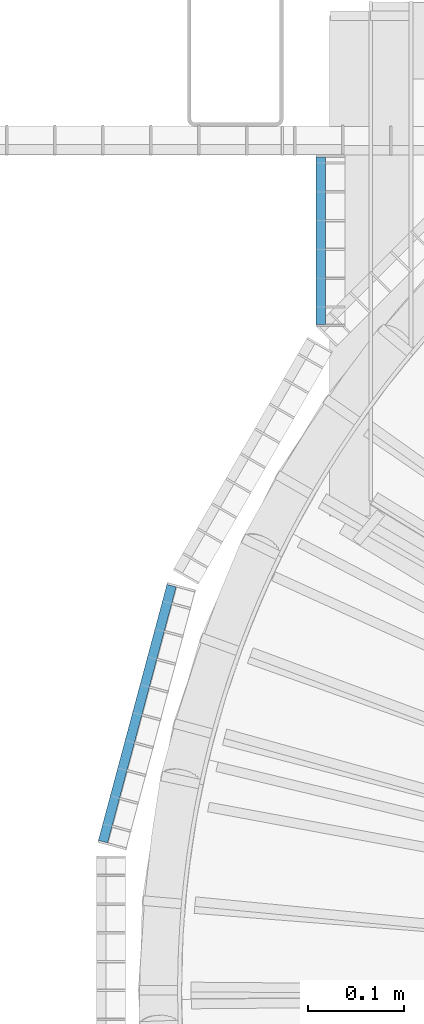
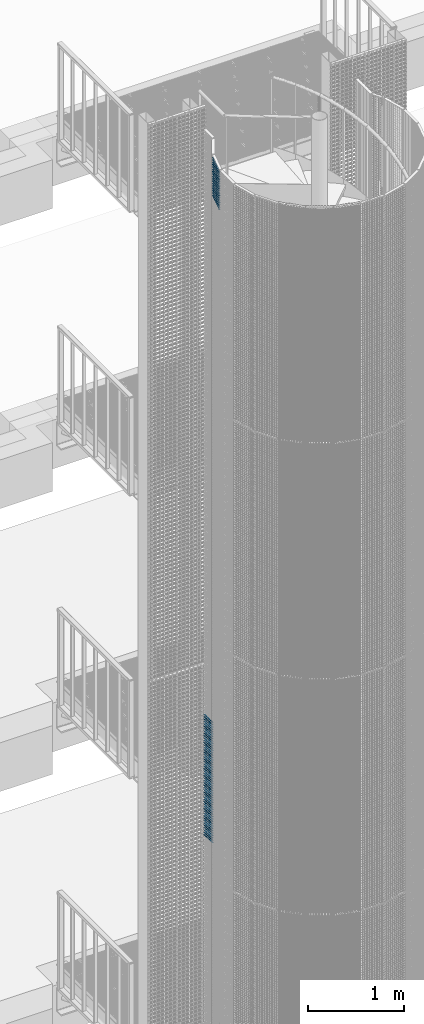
# One storey, part 177 of 1148: 69 beams, 2 elements without a shape of their own.
"""IFC2X3 building model written with IfcOpenShell, lengths in millimetres."""

from ifc_helpers import new_model, si_unit, frame, origin_with_axes, origin_2d_with_axis, place, context, subcontext, project, spatial, rectangle, extrude, material, type_object, element, aggregate, save


model = new_model("IFC2X3")

# Units and contexts
model_context = context("Model", 3, precision=1e-05, world=origin_with_axes())
body_context = subcontext(model_context, "Body", "Model", "MODEL_VIEW")
ifc_project = project(units=[si_unit("LENGTHUNIT", "METRE", prefix="MILLI"), si_unit("AREAUNIT", "SQUARE_METRE"), si_unit("VOLUMEUNIT", "CUBIC_METRE"), si_unit("MASSUNIT", "GRAM", prefix="KILO"), si_unit("TIMEUNIT", "SECOND"), si_unit("PLANEANGLEUNIT", "RADIAN"), si_unit("SOLIDANGLEUNIT", "STERADIAN"), si_unit("THERMODYNAMICTEMPERATUREUNIT", "DEGREE_CELSIUS"), si_unit("LUMINOUSINTENSITYUNIT", "LUMEN")], contexts=[model_context])

# Site, building, storey
site_placement = place(None, origin_with_axes())
site = spatial("IfcSite", under=ifc_project, at=site_placement, Name="Undefined", CompositionType="ELEMENT")
building_placement = place(site_placement, origin_with_axes())
building = spatial("IfcBuilding", under=site, at=building_placement, Name="Undefined", CompositionType="ELEMENT")
storey_placement = place(building_placement, origin_with_axes())
storey = spatial("IfcBuildingStorey", under=building, at=storey_placement, Name="Undefined", CompositionType="ELEMENT", Elevation=0.0)

# Assembly, beams
assembly_1_placement = place(storey_placement, origin_with_axes())
assembly_1 = element("IfcElementAssembly", 1, at=assembly_1_placement, inside=storey, Name="BORDURE", AssemblyPlace="NOTDEFINED", PredefinedType="NOTDEFINED")
ifc_material = material(Name="STEEL/S235JR")
beam_type = type_object("IfcBeamType", Name="PL2*10", PredefinedType="NOTDEFINED")
beam_1_placement = place(assembly_1_placement, frame((-884.882567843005, 867.997017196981, 10560.0), z_axis=(-1.0, 0.0, 0.0), x_axis=(0.0, -1.0, 0.0)))
beam_1 = element("IfcBeam", 2, at=beam_1_placement, type_object=beam_type, material=ifc_material, Name="ENTRETOISE", context=body_context, shape_type="SweptSolid", body=[
    extrude(rectangle(XDim=2.0, YDim=10.0, at=origin_2d_with_axis()), frame((174.109999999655, 0.0, 0.0), z_axis=(-1.0, 0.0, 0.0), x_axis=(0.0, -1.0, 0.0)), (0.0, 0.0, 1.0), 174.11),
])
beam_2_placement = place(assembly_1_placement, frame((-884.882567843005, 867.997017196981, 10530.0), z_axis=(-1.0, 0.0, 0.0), x_axis=(0.0, -1.0, 0.0)))
beam_2 = element("IfcBeam", 3, at=beam_2_placement, type_object=beam_type, material=ifc_material, Name="ENTRETOISE", context=body_context, shape_type="SweptSolid", body=[
    extrude(rectangle(XDim=2.0, YDim=10.0, at=origin_2d_with_axis()), frame((174.109999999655, 0.0, 0.0), z_axis=(-1.0, 0.0, 0.0), x_axis=(0.0, -1.0, 0.0)), (0.0, 0.0, 1.0), 174.11),
])
beam_3_placement = place(assembly_1_placement, frame((-884.882567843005, 867.997017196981, 10500.0), z_axis=(-1.0, 0.0, 0.0), x_axis=(0.0, -1.0, 0.0)))
beam_3 = element("IfcBeam", 4, at=beam_3_placement, type_object=beam_type, material=ifc_material, Name="ENTRETOISE", context=body_context, shape_type="SweptSolid", body=[
    extrude(rectangle(XDim=2.0, YDim=10.0, at=origin_2d_with_axis()), frame((174.109999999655, 0.0, 0.0), z_axis=(-1.0, 0.0, 0.0), x_axis=(0.0, -1.0, 0.0)), (0.0, 0.0, 1.0), 174.11),
])
beam_4_placement = place(assembly_1_placement, frame((-884.882567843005, 867.997017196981, 10470.0), z_axis=(-1.0, 0.0, 0.0), x_axis=(0.0, -1.0, 0.0)))
beam_4 = element("IfcBeam", 5, at=beam_4_placement, type_object=beam_type, material=ifc_material, Name="ENTRETOISE", context=body_context, shape_type="SweptSolid", body=[
    extrude(rectangle(XDim=2.0, YDim=10.0, at=origin_2d_with_axis()), frame((174.109999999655, 0.0, 0.0), z_axis=(-1.0, 0.0, 0.0), x_axis=(0.0, -1.0, 0.0)), (0.0, 0.0, 1.0), 174.11),
])
beam_5_placement = place(assembly_1_placement, frame((-884.882567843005, 867.997017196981, 10440.0), z_axis=(-1.0, 0.0, 0.0), x_axis=(0.0, -1.0, 0.0)))
beam_5 = element("IfcBeam", 6, at=beam_5_placement, type_object=beam_type, material=ifc_material, Name="ENTRETOISE", context=body_context, shape_type="SweptSolid", body=[
    extrude(rectangle(XDim=2.0, YDim=10.0, at=origin_2d_with_axis()), frame((174.109999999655, 0.0, 0.0), z_axis=(-1.0, 0.0, 0.0), x_axis=(0.0, -1.0, 0.0)), (0.0, 0.0, 1.0), 174.11),
])
beam_6_placement = place(assembly_1_placement, frame((-884.882567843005, 867.997017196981, 10410.0), z_axis=(-1.0, 0.0, 0.0), x_axis=(0.0, -1.0, 0.0)))
beam_6 = element("IfcBeam", 7, at=beam_6_placement, type_object=beam_type, material=ifc_material, Name="ENTRETOISE", context=body_context, shape_type="SweptSolid", body=[
    extrude(rectangle(XDim=2.0, YDim=10.0, at=origin_2d_with_axis()), frame((174.109999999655, 0.0, 0.0), z_axis=(-1.0, 0.0, 0.0), x_axis=(0.0, -1.0, 0.0)), (0.0, 0.0, 1.0), 174.11),
])
beam_7_placement = place(assembly_1_placement, frame((-884.882567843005, 867.99701719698, 10380.0), z_axis=(-1.0, 0.0, 0.0), x_axis=(0.0, -1.0, 0.0)))
beam_7 = element("IfcBeam", 8, at=beam_7_placement, type_object=beam_type, material=ifc_material, Name="ENTRETOISE", context=body_context, shape_type="SweptSolid", body=[
    extrude(rectangle(XDim=2.0, YDim=10.0, at=origin_2d_with_axis()), frame((174.109999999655, 0.0, 0.0), z_axis=(-1.0, 0.0, 0.0), x_axis=(0.0, -1.0, 0.0)), (0.0, 0.0, 1.0), 174.11),
])
beam_8_placement = place(assembly_1_placement, frame((-884.882567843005, 867.99701719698, 10350.0), z_axis=(-1.0, 0.0, 0.0), x_axis=(0.0, -1.0, 0.0)))
beam_8 = element("IfcBeam", 9, at=beam_8_placement, type_object=beam_type, material=ifc_material, Name="ENTRETOISE", context=body_context, shape_type="SweptSolid", body=[
    extrude(rectangle(XDim=2.0, YDim=10.0, at=origin_2d_with_axis()), frame((174.109999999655, 0.0, 0.0), z_axis=(-1.0, 0.0, 0.0), x_axis=(0.0, -1.0, 0.0)), (0.0, 0.0, 1.0), 174.11),
])
beam_9_placement = place(assembly_1_placement, frame((-884.882567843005, 867.99701719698, 10320.0), z_axis=(-1.0, 0.0, 0.0), x_axis=(0.0, -1.0, 0.0)))
beam_9 = element("IfcBeam", 10, at=beam_9_placement, type_object=beam_type, material=ifc_material, Name="ENTRETOISE", context=body_context, shape_type="SweptSolid", body=[
    extrude(rectangle(XDim=2.0, YDim=10.0, at=origin_2d_with_axis()), frame((174.109999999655, 0.0, 0.0), z_axis=(-1.0, 0.0, 0.0), x_axis=(0.0, -1.0, 0.0)), (0.0, 0.0, 1.0), 174.11),
])
beam_10_placement = place(assembly_1_placement, frame((-884.882567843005, 867.99701719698, 10290.0), z_axis=(-1.0, 0.0, 0.0), x_axis=(0.0, -1.0, 0.0)))
beam_10 = element("IfcBeam", 11, at=beam_10_placement, type_object=beam_type, material=ifc_material, Name="ENTRETOISE", context=body_context, shape_type="SweptSolid", body=[
    extrude(rectangle(XDim=2.0, YDim=10.0, at=origin_2d_with_axis()), frame((174.109999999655, 0.0, 0.0), z_axis=(-1.0, 0.0, 0.0), x_axis=(0.0, -1.0, 0.0)), (0.0, 0.0, 1.0), 174.11),
])
beam_11_placement = place(assembly_1_placement, frame((-884.882567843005, 867.99701719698, 10260.0), z_axis=(-1.0, 0.0, 0.0), x_axis=(0.0, -1.0, 0.0)))
beam_11 = element("IfcBeam", 12, at=beam_11_placement, type_object=beam_type, material=ifc_material, Name="ENTRETOISE", context=body_context, shape_type="SweptSolid", body=[
    extrude(rectangle(XDim=2.0, YDim=10.0, at=origin_2d_with_axis()), frame((174.109999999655, 0.0, 0.0), z_axis=(-1.0, 0.0, 0.0), x_axis=(0.0, -1.0, 0.0)), (0.0, 0.0, 1.0), 174.11),
])
beam_12_placement = place(assembly_1_placement, frame((-884.882567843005, 867.99701719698, 10230.0), z_axis=(-1.0, 0.0, 0.0), x_axis=(0.0, -1.0, 0.0)))
beam_12 = element("IfcBeam", 13, at=beam_12_placement, type_object=beam_type, material=ifc_material, Name="ENTRETOISE", context=body_context, shape_type="SweptSolid", body=[
    extrude(rectangle(XDim=2.0, YDim=10.0, at=origin_2d_with_axis()), frame((174.109999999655, 0.0, 0.0), z_axis=(-1.0, 0.0, 0.0), x_axis=(0.0, -1.0, 0.0)), (0.0, 0.0, 1.0), 174.11),
])
beam_13_placement = place(assembly_1_placement, frame((-884.882567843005, 867.99701719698, 10200.0), z_axis=(-1.0, 0.0, 0.0), x_axis=(0.0, -1.0, 0.0)))
beam_13 = element("IfcBeam", 14, at=beam_13_placement, type_object=beam_type, material=ifc_material, Name="ENTRETOISE", context=body_context, shape_type="SweptSolid", body=[
    extrude(rectangle(XDim=2.0, YDim=10.0, at=origin_2d_with_axis()), frame((174.109999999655, 0.0, 0.0), z_axis=(-1.0, 0.0, 0.0), x_axis=(0.0, -1.0, 0.0)), (0.0, 0.0, 1.0), 174.11),
])
beam_14_placement = place(assembly_1_placement, frame((-884.882567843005, 867.99701719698, 10170.0), z_axis=(-1.0, 0.0, 0.0), x_axis=(0.0, -1.0, 0.0)))
beam_14 = element("IfcBeam", 15, at=beam_14_placement, type_object=beam_type, material=ifc_material, Name="ENTRETOISE", context=body_context, shape_type="SweptSolid", body=[
    extrude(rectangle(XDim=2.0, YDim=10.0, at=origin_2d_with_axis()), frame((174.109999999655, 0.0, 0.0), z_axis=(-1.0, 0.0, 0.0), x_axis=(0.0, -1.0, 0.0)), (0.0, 0.0, 1.0), 174.11),
])
beam_15_placement = place(assembly_1_placement, frame((-884.882567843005, 867.99701719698, 10140.0), z_axis=(-1.0, 0.0, 0.0), x_axis=(0.0, -1.0, 0.0)))
beam_15 = element("IfcBeam", 16, at=beam_15_placement, type_object=beam_type, material=ifc_material, Name="ENTRETOISE", context=body_context, shape_type="SweptSolid", body=[
    extrude(rectangle(XDim=2.0, YDim=10.0, at=origin_2d_with_axis()), frame((174.109999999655, 0.0, 0.0), z_axis=(-1.0, 0.0, 0.0), x_axis=(0.0, -1.0, 0.0)), (0.0, 0.0, 1.0), 174.11),
])
beam_16_placement = place(assembly_1_placement, frame((-884.882567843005, 867.997017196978, 9720.0), z_axis=(-1.0, 0.0, 0.0), x_axis=(0.0, -1.0, 0.0)))
beam_16 = element("IfcBeam", 17, at=beam_16_placement, type_object=beam_type, material=ifc_material, Name="ENTRETOISE", context=body_context, shape_type="SweptSolid", body=[
    extrude(rectangle(XDim=2.0, YDim=10.0, at=origin_2d_with_axis()), frame((174.109999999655, 0.0, 0.0), z_axis=(-1.0, 0.0, 0.0), x_axis=(0.0, -1.0, 0.0)), (0.0, 0.0, 1.0), 174.11),
])
beam_17_placement = place(assembly_1_placement, frame((-884.882567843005, 867.997017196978, 9690.0), z_axis=(-1.0, 0.0, 0.0), x_axis=(0.0, -1.0, 0.0)))
beam_17 = element("IfcBeam", 18, at=beam_17_placement, type_object=beam_type, material=ifc_material, Name="ENTRETOISE", context=body_context, shape_type="SweptSolid", body=[
    extrude(rectangle(XDim=2.0, YDim=10.0, at=origin_2d_with_axis()), frame((174.109999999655, 0.0, 0.0), z_axis=(-1.0, 0.0, 0.0), x_axis=(0.0, -1.0, 0.0)), (0.0, 0.0, 1.0), 174.11),
])
beam_18_placement = place(assembly_1_placement, frame((-884.882567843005, 867.997017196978, 9750.0), z_axis=(-1.0, 0.0, 0.0), x_axis=(0.0, -1.0, 0.0)))
beam_18 = element("IfcBeam", 19, at=beam_18_placement, type_object=beam_type, material=ifc_material, Name="ENTRETOISE", context=body_context, shape_type="SweptSolid", body=[
    extrude(rectangle(XDim=2.0, YDim=10.0, at=origin_2d_with_axis()), frame((174.109999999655, 0.0, 0.0), z_axis=(-1.0, 0.0, 0.0), x_axis=(0.0, -1.0, 0.0)), (0.0, 0.0, 1.0), 174.11),
])
beam_19_placement = place(assembly_1_placement, frame((-884.882567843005, 867.997017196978, 9660.0), z_axis=(-1.0, 0.0, 0.0), x_axis=(0.0, -1.0, 0.0)))
beam_19 = element("IfcBeam", 20, at=beam_19_placement, type_object=beam_type, material=ifc_material, Name="ENTRETOISE", context=body_context, shape_type="SweptSolid", body=[
    extrude(rectangle(XDim=2.0, YDim=10.0, at=origin_2d_with_axis()), frame((174.109999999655, 0.0, 0.0), z_axis=(-1.0, 0.0, 0.0), x_axis=(0.0, -1.0, 0.0)), (0.0, 0.0, 1.0), 174.11),
])
beam_20_placement = place(assembly_1_placement, frame((-884.882567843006, 867.997017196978, 9630.0), z_axis=(-1.0, 0.0, 0.0), x_axis=(0.0, -1.0, 0.0)))
beam_20 = element("IfcBeam", 21, at=beam_20_placement, type_object=beam_type, material=ifc_material, Name="ENTRETOISE", context=body_context, shape_type="SweptSolid", body=[
    extrude(rectangle(XDim=2.0, YDim=10.0, at=origin_2d_with_axis()), frame((174.109999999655, 0.0, 0.0), z_axis=(-1.0, 0.0, 0.0), x_axis=(0.0, -1.0, 0.0)), (0.0, 0.0, 1.0), 174.11),
])
beam_21_placement = place(assembly_1_placement, frame((-884.882567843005, 867.997017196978, 9780.0), z_axis=(-1.0, 0.0, 0.0), x_axis=(0.0, -1.0, 0.0)))
beam_21 = element("IfcBeam", 22, at=beam_21_placement, type_object=beam_type, material=ifc_material, Name="ENTRETOISE", context=body_context, shape_type="SweptSolid", body=[
    extrude(rectangle(XDim=2.0, YDim=10.0, at=origin_2d_with_axis()), frame((174.109999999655, 0.0, 0.0), z_axis=(-1.0, 0.0, 0.0), x_axis=(0.0, -1.0, 0.0)), (0.0, 0.0, 1.0), 174.11),
])
beam_22_placement = place(assembly_1_placement, frame((-884.882567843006, 867.997017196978, 9600.0), z_axis=(-1.0, 0.0, 0.0), x_axis=(0.0, -1.0, 0.0)))
beam_22 = element("IfcBeam", 23, at=beam_22_placement, type_object=beam_type, material=ifc_material, Name="ENTRETOISE", context=body_context, shape_type="SweptSolid", body=[
    extrude(rectangle(XDim=2.0, YDim=10.0, at=origin_2d_with_axis()), frame((174.109999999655, 0.0, 0.0), z_axis=(-1.0, 0.0, 0.0), x_axis=(0.0, -1.0, 0.0)), (0.0, 0.0, 1.0), 174.11),
])
beam_23_placement = place(assembly_1_placement, frame((-884.882567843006, 867.997017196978, 9810.0), z_axis=(-1.0, 0.0, 0.0), x_axis=(0.0, -1.0, 0.0)))
beam_23 = element("IfcBeam", 24, at=beam_23_placement, type_object=beam_type, material=ifc_material, Name="ENTRETOISE", context=body_context, shape_type="SweptSolid", body=[
    extrude(rectangle(XDim=2.0, YDim=10.0, at=origin_2d_with_axis()), frame((174.109999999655, 0.0, 0.0), z_axis=(-1.0, 0.0, 0.0), x_axis=(0.0, -1.0, 0.0)), (0.0, 0.0, 1.0), 174.11),
])
beam_24_placement = place(assembly_1_placement, frame((-884.882567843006, 867.997017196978, 9570.0), z_axis=(-1.0, 0.0, 0.0), x_axis=(0.0, -1.0, 0.0)))
beam_24 = element("IfcBeam", 25, at=beam_24_placement, type_object=beam_type, material=ifc_material, Name="ENTRETOISE", context=body_context, shape_type="SweptSolid", body=[
    extrude(rectangle(XDim=2.0, YDim=10.0, at=origin_2d_with_axis()), frame((174.109999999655, 0.0, 0.0), z_axis=(-1.0, 0.0, 0.0), x_axis=(0.0, -1.0, 0.0)), (0.0, 0.0, 1.0), 174.11),
])
beam_25_placement = place(assembly_1_placement, frame((-884.882567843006, 867.997017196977, 9540.0), z_axis=(-1.0, 0.0, 0.0), x_axis=(0.0, -1.0, 0.0)))
beam_25 = element("IfcBeam", 26, at=beam_25_placement, type_object=beam_type, material=ifc_material, Name="ENTRETOISE", context=body_context, shape_type="SweptSolid", body=[
    extrude(rectangle(XDim=2.0, YDim=10.0, at=origin_2d_with_axis()), frame((174.109999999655, 0.0, 0.0), z_axis=(-1.0, 0.0, 0.0), x_axis=(0.0, -1.0, 0.0)), (0.0, 0.0, 1.0), 174.11),
])
beam_26_placement = place(assembly_1_placement, frame((-884.882567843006, 867.997017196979, 9840.0), z_axis=(-1.0, 0.0, 0.0), x_axis=(0.0, -1.0, 0.0)))
beam_26 = element("IfcBeam", 27, at=beam_26_placement, type_object=beam_type, material=ifc_material, Name="ENTRETOISE", context=body_context, shape_type="SweptSolid", body=[
    extrude(rectangle(XDim=2.0, YDim=10.0, at=origin_2d_with_axis()), frame((174.109999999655, 0.0, 0.0), z_axis=(-1.0, 0.0, 0.0), x_axis=(0.0, -1.0, 0.0)), (0.0, 0.0, 1.0), 174.11),
])
beam_27_placement = place(assembly_1_placement, frame((-884.882567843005, 867.997017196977, 9510.0), z_axis=(-1.0, 0.0, 0.0), x_axis=(0.0, -1.0, 0.0)))
beam_27 = element("IfcBeam", 28, at=beam_27_placement, type_object=beam_type, material=ifc_material, Name="ENTRETOISE", context=body_context, shape_type="SweptSolid", body=[
    extrude(rectangle(XDim=2.0, YDim=10.0, at=origin_2d_with_axis()), frame((174.109999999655, 0.0, 0.0), z_axis=(-1.0, 0.0, 0.0), x_axis=(0.0, -1.0, 0.0)), (0.0, 0.0, 1.0), 174.11),
])
beam_28_placement = place(assembly_1_placement, frame((-884.882567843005, 867.997017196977, 9480.0), z_axis=(-1.0, 0.0, 0.0), x_axis=(0.0, -1.0, 0.0)))
beam_28 = element("IfcBeam", 29, at=beam_28_placement, type_object=beam_type, material=ifc_material, Name="ENTRETOISE", context=body_context, shape_type="SweptSolid", body=[
    extrude(rectangle(XDim=2.0, YDim=10.0, at=origin_2d_with_axis()), frame((174.109999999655, 0.0, 0.0), z_axis=(-1.0, 0.0, 0.0), x_axis=(0.0, -1.0, 0.0)), (0.0, 0.0, 1.0), 174.11),
])
beam_29_placement = place(assembly_1_placement, frame((-884.882567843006, 867.997017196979, 9870.0), z_axis=(-1.0, 0.0, 0.0), x_axis=(0.0, -1.0, 0.0)))
beam_29 = element("IfcBeam", 30, at=beam_29_placement, type_object=beam_type, material=ifc_material, Name="ENTRETOISE", context=body_context, shape_type="SweptSolid", body=[
    extrude(rectangle(XDim=2.0, YDim=10.0, at=origin_2d_with_axis()), frame((174.109999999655, 0.0, 0.0), z_axis=(-1.0, 0.0, 0.0), x_axis=(0.0, -1.0, 0.0)), (0.0, 0.0, 1.0), 174.11),
])
beam_30_placement = place(assembly_1_placement, frame((-884.882567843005, 867.997017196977, 9450.0), z_axis=(-1.0, 0.0, 0.0), x_axis=(0.0, -1.0, 0.0)))
beam_30 = element("IfcBeam", 31, at=beam_30_placement, type_object=beam_type, material=ifc_material, Name="ENTRETOISE", context=body_context, shape_type="SweptSolid", body=[
    extrude(rectangle(XDim=2.0, YDim=10.0, at=origin_2d_with_axis()), frame((174.109999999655, 0.0, 0.0), z_axis=(-1.0, 0.0, 0.0), x_axis=(0.0, -1.0, 0.0)), (0.0, 0.0, 1.0), 174.11),
])
beam_31_placement = place(assembly_1_placement, frame((-884.882567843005, 867.997017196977, 9420.0), z_axis=(-1.0, 0.0, 0.0), x_axis=(0.0, -1.0, 0.0)))
beam_31 = element("IfcBeam", 32, at=beam_31_placement, type_object=beam_type, material=ifc_material, Name="ENTRETOISE", context=body_context, shape_type="SweptSolid", body=[
    extrude(rectangle(XDim=2.0, YDim=10.0, at=origin_2d_with_axis()), frame((174.109999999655, 0.0, 0.0), z_axis=(-1.0, 0.0, 0.0), x_axis=(0.0, -1.0, 0.0)), (0.0, 0.0, 1.0), 174.11),
])
beam_32_placement = place(assembly_1_placement, frame((-884.882567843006, 867.997017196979, 9900.0), z_axis=(-1.0, 0.0, 0.0), x_axis=(0.0, -1.0, 0.0)))
beam_32 = element("IfcBeam", 33, at=beam_32_placement, type_object=beam_type, material=ifc_material, Name="ENTRETOISE", context=body_context, shape_type="SweptSolid", body=[
    extrude(rectangle(XDim=2.0, YDim=10.0, at=origin_2d_with_axis()), frame((174.109999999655, 0.0, 0.0), z_axis=(-1.0, 0.0, 0.0), x_axis=(0.0, -1.0, 0.0)), (0.0, 0.0, 1.0), 174.11),
])
beam_33_placement = place(assembly_1_placement, frame((-884.882567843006, 867.997017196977, 9390.0), z_axis=(-1.0, 0.0, 0.0), x_axis=(0.0, -1.0, 0.0)))
beam_33 = element("IfcBeam", 34, at=beam_33_placement, type_object=beam_type, material=ifc_material, Name="ENTRETOISE", context=body_context, shape_type="SweptSolid", body=[
    extrude(rectangle(XDim=2.0, YDim=10.0, at=origin_2d_with_axis()), frame((174.109999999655, 0.0, 0.0), z_axis=(-1.0, 0.0, 0.0), x_axis=(0.0, -1.0, 0.0)), (0.0, 0.0, 1.0), 174.11),
])
beam_34_placement = place(assembly_1_placement, frame((-884.882567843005, 867.997017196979, 9930.0), z_axis=(-1.0, 0.0, 0.0), x_axis=(0.0, -1.0, 0.0)))
beam_34 = element("IfcBeam", 35, at=beam_34_placement, type_object=beam_type, material=ifc_material, Name="ENTRETOISE", context=body_context, shape_type="SweptSolid", body=[
    extrude(rectangle(XDim=2.0, YDim=10.0, at=origin_2d_with_axis()), frame((174.109999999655, 0.0, 0.0), z_axis=(-1.0, 0.0, 0.0), x_axis=(0.0, -1.0, 0.0)), (0.0, 0.0, 1.0), 174.11),
])
beam_35_placement = place(assembly_1_placement, frame((-884.882567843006, 867.997017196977, 9360.0), z_axis=(-1.0, 0.0, 0.0), x_axis=(0.0, -1.0, 0.0)))
beam_35 = element("IfcBeam", 36, at=beam_35_placement, type_object=beam_type, material=ifc_material, Name="ENTRETOISE", context=body_context, shape_type="SweptSolid", body=[
    extrude(rectangle(XDim=2.0, YDim=10.0, at=origin_2d_with_axis()), frame((174.109999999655, 0.0, 0.0), z_axis=(-1.0, 0.0, 0.0), x_axis=(0.0, -1.0, 0.0)), (0.0, 0.0, 1.0), 174.11),
])
beam_36_placement = place(assembly_1_placement, frame((-884.882567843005, 867.997017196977, 9330.0), z_axis=(-1.0, 0.0, 0.0), x_axis=(0.0, -1.0, 0.0)))
beam_36 = element("IfcBeam", 37, at=beam_36_placement, type_object=beam_type, material=ifc_material, Name="ENTRETOISE", context=body_context, shape_type="SweptSolid", body=[
    extrude(rectangle(XDim=2.0, YDim=10.0, at=origin_2d_with_axis()), frame((174.109999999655, 0.0, 0.0), z_axis=(-1.0, 0.0, 0.0), x_axis=(0.0, -1.0, 0.0)), (0.0, 0.0, 1.0), 174.11),
])
beam_37_placement = place(assembly_1_placement, frame((-884.882567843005, 867.997017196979, 9960.0), z_axis=(-1.0, 0.0, 0.0), x_axis=(0.0, -1.0, 0.0)))
beam_37 = element("IfcBeam", 38, at=beam_37_placement, type_object=beam_type, material=ifc_material, Name="ENTRETOISE", context=body_context, shape_type="SweptSolid", body=[
    extrude(rectangle(XDim=2.0, YDim=10.0, at=origin_2d_with_axis()), frame((174.109999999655, 0.0, 0.0), z_axis=(-1.0, 0.0, 0.0), x_axis=(0.0, -1.0, 0.0)), (0.0, 0.0, 1.0), 174.11),
])
beam_38_placement = place(assembly_1_placement, frame((-884.882567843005, 867.997017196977, 9300.0), z_axis=(-1.0, 0.0, 0.0), x_axis=(0.0, -1.0, 0.0)))
beam_38 = element("IfcBeam", 39, at=beam_38_placement, type_object=beam_type, material=ifc_material, Name="ENTRETOISE", context=body_context, shape_type="SweptSolid", body=[
    extrude(rectangle(XDim=2.0, YDim=10.0, at=origin_2d_with_axis()), frame((174.109999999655, 0.0, 0.0), z_axis=(-1.0, 0.0, 0.0), x_axis=(0.0, -1.0, 0.0)), (0.0, 0.0, 1.0), 174.11),
])
beam_39_placement = place(assembly_1_placement, frame((-884.882567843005, 867.997017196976, 9270.0), z_axis=(-1.0, 0.0, 0.0), x_axis=(0.0, -1.0, 0.0)))
beam_39 = element("IfcBeam", 40, at=beam_39_placement, type_object=beam_type, material=ifc_material, Name="ENTRETOISE", context=body_context, shape_type="SweptSolid", body=[
    extrude(rectangle(XDim=2.0, YDim=10.0, at=origin_2d_with_axis()), frame((174.109999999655, 0.0, 0.0), z_axis=(-1.0, 0.0, 0.0), x_axis=(0.0, -1.0, 0.0)), (0.0, 0.0, 1.0), 174.11),
])
beam_40_placement = place(assembly_1_placement, frame((-884.882567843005, 867.997017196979, 9990.0), z_axis=(-1.0, 0.0, 0.0), x_axis=(0.0, -1.0, 0.0)))
beam_40 = element("IfcBeam", 41, at=beam_40_placement, type_object=beam_type, material=ifc_material, Name="ENTRETOISE", context=body_context, shape_type="SweptSolid", body=[
    extrude(rectangle(XDim=2.0, YDim=10.0, at=origin_2d_with_axis()), frame((174.109999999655, 0.0, 0.0), z_axis=(-1.0, 0.0, 0.0), x_axis=(0.0, -1.0, 0.0)), (0.0, 0.0, 1.0), 174.11),
])
beam_41_placement = place(assembly_1_placement, frame((-884.882567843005, 867.997017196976, 9240.0), z_axis=(-1.0, 0.0, 0.0), x_axis=(0.0, -1.0, 0.0)))
beam_41 = element("IfcBeam", 42, at=beam_41_placement, type_object=beam_type, material=ifc_material, Name="ENTRETOISE", context=body_context, shape_type="SweptSolid", body=[
    extrude(rectangle(XDim=2.0, YDim=10.0, at=origin_2d_with_axis()), frame((174.109999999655, 0.0, 0.0), z_axis=(-1.0, 0.0, 0.0), x_axis=(0.0, -1.0, 0.0)), (0.0, 0.0, 1.0), 174.11),
])
beam_42_placement = place(assembly_1_placement, frame((-884.882567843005, 867.997017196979, 10020.0), z_axis=(-1.0, 0.0, 0.0), x_axis=(0.0, -1.0, 0.0)))
beam_42 = element("IfcBeam", 43, at=beam_42_placement, type_object=beam_type, material=ifc_material, Name="ENTRETOISE", context=body_context, shape_type="SweptSolid", body=[
    extrude(rectangle(XDim=2.0, YDim=10.0, at=origin_2d_with_axis()), frame((174.109999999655, 0.0, 0.0), z_axis=(-1.0, 0.0, 0.0), x_axis=(0.0, -1.0, 0.0)), (0.0, 0.0, 1.0), 174.11),
])
beam_43_placement = place(assembly_1_placement, frame((-884.882567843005, 867.997017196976, 9210.0), z_axis=(-1.0, 0.0, 0.0), x_axis=(0.0, -1.0, 0.0)))
beam_43 = element("IfcBeam", 44, at=beam_43_placement, type_object=beam_type, material=ifc_material, Name="ENTRETOISE", context=body_context, shape_type="SweptSolid", body=[
    extrude(rectangle(XDim=2.0, YDim=10.0, at=origin_2d_with_axis()), frame((174.109999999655, 0.0, 0.0), z_axis=(-1.0, 0.0, 0.0), x_axis=(0.0, -1.0, 0.0)), (0.0, 0.0, 1.0), 174.11),
])
beam_44_placement = place(assembly_1_placement, frame((-884.882567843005, 867.997017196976, 9180.0), z_axis=(-1.0, 0.0, 0.0), x_axis=(0.0, -1.0, 0.0)))
beam_44 = element("IfcBeam", 45, at=beam_44_placement, type_object=beam_type, material=ifc_material, Name="ENTRETOISE", context=body_context, shape_type="SweptSolid", body=[
    extrude(rectangle(XDim=2.0, YDim=10.0, at=origin_2d_with_axis()), frame((174.109999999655, 0.0, 0.0), z_axis=(-1.0, 0.0, 0.0), x_axis=(0.0, -1.0, 0.0)), (0.0, 0.0, 1.0), 174.11),
])
beam_45_placement = place(assembly_1_placement, frame((-884.882567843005, 867.997017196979, 10050.0), z_axis=(-1.0, 0.0, 0.0), x_axis=(0.0, -1.0, 0.0)))
beam_45 = element("IfcBeam", 46, at=beam_45_placement, type_object=beam_type, material=ifc_material, Name="ENTRETOISE", context=body_context, shape_type="SweptSolid", body=[
    extrude(rectangle(XDim=2.0, YDim=10.0, at=origin_2d_with_axis()), frame((174.109999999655, 0.0, 0.0), z_axis=(-1.0, 0.0, 0.0), x_axis=(0.0, -1.0, 0.0)), (0.0, 0.0, 1.0), 174.11),
])
beam_46_placement = place(assembly_1_placement, frame((-884.882567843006, 867.997017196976, 9150.0), z_axis=(-1.0, 0.0, 0.0), x_axis=(0.0, -1.0, 0.0)))
beam_46 = element("IfcBeam", 47, at=beam_46_placement, type_object=beam_type, material=ifc_material, Name="ENTRETOISE", context=body_context, shape_type="SweptSolid", body=[
    extrude(rectangle(XDim=2.0, YDim=10.0, at=origin_2d_with_axis()), frame((174.109999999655, 0.0, 0.0), z_axis=(-1.0, 0.0, 0.0), x_axis=(0.0, -1.0, 0.0)), (0.0, 0.0, 1.0), 174.11),
])
beam_47_placement = place(assembly_1_placement, frame((-884.882567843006, 867.997017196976, 9120.0), z_axis=(-1.0, 0.0, 0.0), x_axis=(0.0, -1.0, 0.0)))
beam_47 = element("IfcBeam", 48, at=beam_47_placement, type_object=beam_type, material=ifc_material, Name="ENTRETOISE", context=body_context, shape_type="SweptSolid", body=[
    extrude(rectangle(XDim=2.0, YDim=10.0, at=origin_2d_with_axis()), frame((174.109999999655, 0.0, 0.0), z_axis=(-1.0, 0.0, 0.0), x_axis=(0.0, -1.0, 0.0)), (0.0, 0.0, 1.0), 174.11),
])
beam_48_placement = place(assembly_1_placement, frame((-884.882567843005, 867.997017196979, 10080.0), z_axis=(-1.0, 0.0, 0.0), x_axis=(0.0, -1.0, 0.0)))
beam_48 = element("IfcBeam", 49, at=beam_48_placement, type_object=beam_type, material=ifc_material, Name="ENTRETOISE", context=body_context, shape_type="SweptSolid", body=[
    extrude(rectangle(XDim=2.0, YDim=10.0, at=origin_2d_with_axis()), frame((174.109999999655, 0.0, 0.0), z_axis=(-1.0, 0.0, 0.0), x_axis=(0.0, -1.0, 0.0)), (0.0, 0.0, 1.0), 174.11),
])
beam_49_placement = place(assembly_1_placement, frame((-884.882567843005, 867.997017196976, 9090.0), z_axis=(-1.0, 0.0, 0.0), x_axis=(0.0, -1.0, 0.0)))
beam_49 = element("IfcBeam", 50, at=beam_49_placement, type_object=beam_type, material=ifc_material, Name="ENTRETOISE", context=body_context, shape_type="SweptSolid", body=[
    extrude(rectangle(XDim=2.0, YDim=10.0, at=origin_2d_with_axis()), frame((174.109999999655, 0.0, 0.0), z_axis=(-1.0, 0.0, 0.0), x_axis=(0.0, -1.0, 0.0)), (0.0, 0.0, 1.0), 174.11),
])
beam_50_placement = place(assembly_1_placement, frame((-884.882567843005, 867.997017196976, 9060.0), z_axis=(-1.0, 0.0, 0.0), x_axis=(0.0, -1.0, 0.0)))
beam_50 = element("IfcBeam", 51, at=beam_50_placement, type_object=beam_type, material=ifc_material, Name="ENTRETOISE", context=body_context, shape_type="SweptSolid", body=[
    extrude(rectangle(XDim=2.0, YDim=10.0, at=origin_2d_with_axis()), frame((174.109999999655, 0.0, 0.0), z_axis=(-1.0, 0.0, 0.0), x_axis=(0.0, -1.0, 0.0)), (0.0, 0.0, 1.0), 174.11),
])
beam_51_placement = place(assembly_1_placement, frame((-884.882567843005, 867.99701719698, 10110.0), z_axis=(-1.0, 0.0, 0.0), x_axis=(0.0, -1.0, 0.0)))
beam_51 = element("IfcBeam", 52, at=beam_51_placement, type_object=beam_type, material=ifc_material, Name="ENTRETOISE", context=body_context, shape_type="SweptSolid", body=[
    extrude(rectangle(XDim=2.0, YDim=10.0, at=origin_2d_with_axis()), frame((174.109999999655, 0.0, 0.0), z_axis=(-1.0, 0.0, 0.0), x_axis=(0.0, -1.0, 0.0)), (0.0, 0.0, 1.0), 174.11),
])
beam_52_placement = place(assembly_1_placement, frame((-884.882567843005, 867.997017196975, 9030.0), z_axis=(-1.0, 0.0, 0.0), x_axis=(0.0, -1.0, 0.0)))
beam_52 = element("IfcBeam", 53, at=beam_52_placement, type_object=beam_type, material=ifc_material, Name="ENTRETOISE", context=body_context, shape_type="SweptSolid", body=[
    extrude(rectangle(XDim=2.0, YDim=10.0, at=origin_2d_with_axis()), frame((174.109999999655, 0.0, 0.0), z_axis=(-1.0, 0.0, 0.0), x_axis=(0.0, -1.0, 0.0)), (0.0, 0.0, 1.0), 174.11),
])
aggregate(assembly_1, [beam_1, beam_2, beam_3, beam_4, beam_5, beam_6, beam_7, beam_8, beam_9, beam_10, beam_11, beam_12, beam_13, beam_14, beam_15, beam_16, beam_17, beam_18, beam_19, beam_20, beam_21, beam_22, beam_23, beam_24, beam_25, beam_26, beam_27, beam_28, beam_29, beam_30, beam_31, beam_32, beam_33, beam_34, beam_35, beam_36, beam_37, beam_38, beam_39, beam_40, beam_41, beam_42, beam_43, beam_44, beam_45, beam_46, beam_47, beam_48, beam_49, beam_50, beam_51, beam_52])

assembly_2_placement = place(storey_placement, origin_with_axes())
assembly_2 = element("IfcElementAssembly", 54, at=assembly_2_placement, inside=storey, Name="BORDURE", AssemblyPlace="NOTDEFINED", PredefinedType="NOTDEFINED")
beam_53_placement = place(assembly_2_placement, frame((-1040.30888419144, 421.61803829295, 17970.0), z_axis=(-0.965925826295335, 0.258819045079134, 0.0), x_axis=(-0.258819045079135, -0.965925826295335, 0.0)))
beam_53 = element("IfcBeam", 55, at=beam_53_placement, type_object=beam_type, material=ifc_material, Name="ENTRETOISE", context=body_context, shape_type="SweptSolid", body=[
    extrude(rectangle(XDim=2.0, YDim=10.0, at=origin_2d_with_axis()), frame((275.999999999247, 9.09494701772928e-13, 1.53210777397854e-14), z_axis=(-1.0, 0.0, 0.0), x_axis=(0.0, -1.0, 0.0)), (0.0, 0.0, 1.0), 276.0),
])
beam_54_placement = place(assembly_2_placement, frame((-1040.30888419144, 421.61803829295, 17940.0), z_axis=(-0.965925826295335, 0.258819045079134, 0.0), x_axis=(-0.258819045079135, -0.965925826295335, 0.0)))
beam_54 = element("IfcBeam", 56, at=beam_54_placement, type_object=beam_type, material=ifc_material, Name="ENTRETOISE", context=body_context, shape_type="SweptSolid", body=[
    extrude(rectangle(XDim=2.0, YDim=10.0, at=origin_2d_with_axis()), frame((275.999999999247, 9.09494701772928e-13, 1.53210777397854e-14), z_axis=(-1.0, 0.0, 0.0), x_axis=(0.0, -1.0, 0.0)), (0.0, 0.0, 1.0), 276.0),
])
beam_55_placement = place(assembly_2_placement, frame((-1040.30888419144, 421.61803829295, 17910.0), z_axis=(-0.965925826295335, 0.258819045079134, 0.0), x_axis=(-0.258819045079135, -0.965925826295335, 0.0)))
beam_55 = element("IfcBeam", 57, at=beam_55_placement, type_object=beam_type, material=ifc_material, Name="ENTRETOISE", context=body_context, shape_type="SweptSolid", body=[
    extrude(rectangle(XDim=2.0, YDim=10.0, at=origin_2d_with_axis()), frame((275.999999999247, 9.09494701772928e-13, 1.53210777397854e-14), z_axis=(-1.0, 0.0, 0.0), x_axis=(0.0, -1.0, 0.0)), (0.0, 0.0, 1.0), 276.0),
])
beam_56_placement = place(assembly_2_placement, frame((-1040.30888419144, 421.61803829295, 17880.0), z_axis=(-0.965925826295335, 0.258819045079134, 0.0), x_axis=(-0.258819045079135, -0.965925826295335, 0.0)))
beam_56 = element("IfcBeam", 58, at=beam_56_placement, type_object=beam_type, material=ifc_material, Name="ENTRETOISE", context=body_context, shape_type="SweptSolid", body=[
    extrude(rectangle(XDim=2.0, YDim=10.0, at=origin_2d_with_axis()), frame((275.999999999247, 9.09494701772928e-13, 1.53210777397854e-14), z_axis=(-1.0, 0.0, 0.0), x_axis=(0.0, -1.0, 0.0)), (0.0, 0.0, 1.0), 276.0),
])
beam_57_placement = place(assembly_2_placement, frame((-1040.30888419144, 421.61803829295, 17850.0), z_axis=(-0.965925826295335, 0.258819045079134, 0.0), x_axis=(-0.258819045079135, -0.965925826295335, 0.0)))
beam_57 = element("IfcBeam", 59, at=beam_57_placement, type_object=beam_type, material=ifc_material, Name="ENTRETOISE", context=body_context, shape_type="SweptSolid", body=[
    extrude(rectangle(XDim=2.0, YDim=10.0, at=origin_2d_with_axis()), frame((275.999999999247, 9.09494701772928e-13, 1.53210777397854e-14), z_axis=(-1.0, 0.0, 0.0), x_axis=(0.0, -1.0, 0.0)), (0.0, 0.0, 1.0), 276.0),
])
beam_58_placement = place(assembly_2_placement, frame((-1040.30888419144, 421.61803829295, 17820.0), z_axis=(-0.965925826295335, 0.258819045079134, 0.0), x_axis=(-0.258819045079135, -0.965925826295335, 0.0)))
beam_58 = element("IfcBeam", 60, at=beam_58_placement, type_object=beam_type, material=ifc_material, Name="ENTRETOISE", context=body_context, shape_type="SweptSolid", body=[
    extrude(rectangle(XDim=2.0, YDim=10.0, at=origin_2d_with_axis()), frame((275.999999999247, 9.09494701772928e-13, 1.53210777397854e-14), z_axis=(-1.0, 0.0, 0.0), x_axis=(0.0, -1.0, 0.0)), (0.0, 0.0, 1.0), 276.0),
])
beam_59_placement = place(assembly_2_placement, frame((-1040.30888419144, 421.61803829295, 17790.0), z_axis=(-0.965925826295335, 0.258819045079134, 0.0), x_axis=(-0.258819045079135, -0.965925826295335, 0.0)))
beam_59 = element("IfcBeam", 61, at=beam_59_placement, type_object=beam_type, material=ifc_material, Name="ENTRETOISE", context=body_context, shape_type="SweptSolid", body=[
    extrude(rectangle(XDim=2.0, YDim=10.0, at=origin_2d_with_axis()), frame((275.999999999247, 9.09494701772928e-13, 1.53210777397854e-14), z_axis=(-1.0, 0.0, 0.0), x_axis=(0.0, -1.0, 0.0)), (0.0, 0.0, 1.0), 276.0),
])
beam_60_placement = place(assembly_2_placement, frame((-1040.30888419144, 421.61803829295, 17760.0), z_axis=(-0.965925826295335, 0.258819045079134, 0.0), x_axis=(-0.258819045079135, -0.965925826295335, 0.0)))
beam_60 = element("IfcBeam", 62, at=beam_60_placement, type_object=beam_type, material=ifc_material, Name="ENTRETOISE", context=body_context, shape_type="SweptSolid", body=[
    extrude(rectangle(XDim=2.0, YDim=10.0, at=origin_2d_with_axis()), frame((275.999999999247, 9.09494701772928e-13, 1.53210777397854e-14), z_axis=(-1.0, 0.0, 0.0), x_axis=(0.0, -1.0, 0.0)), (0.0, 0.0, 1.0), 276.0),
])
beam_61_placement = place(assembly_2_placement, frame((-1040.30888419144, 421.61803829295, 17730.0), z_axis=(-0.965925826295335, 0.258819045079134, 0.0), x_axis=(-0.258819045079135, -0.965925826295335, 0.0)))
beam_61 = element("IfcBeam", 63, at=beam_61_placement, type_object=beam_type, material=ifc_material, Name="ENTRETOISE", context=body_context, shape_type="SweptSolid", body=[
    extrude(rectangle(XDim=2.0, YDim=10.0, at=origin_2d_with_axis()), frame((275.999999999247, 9.09494701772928e-13, 1.53210777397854e-14), z_axis=(-1.0, 0.0, 0.0), x_axis=(0.0, -1.0, 0.0)), (0.0, 0.0, 1.0), 276.0),
])
beam_62_placement = place(assembly_2_placement, frame((-1040.30888419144, 421.618038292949, 17700.0), z_axis=(-0.965925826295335, 0.258819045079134, 0.0), x_axis=(-0.258819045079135, -0.965925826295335, 0.0)))
beam_62 = element("IfcBeam", 64, at=beam_62_placement, type_object=beam_type, material=ifc_material, Name="ENTRETOISE", context=body_context, shape_type="SweptSolid", body=[
    extrude(rectangle(XDim=2.0, YDim=10.0, at=origin_2d_with_axis()), frame((275.999999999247, 9.09494701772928e-13, 1.53210777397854e-14), z_axis=(-1.0, 0.0, 0.0), x_axis=(0.0, -1.0, 0.0)), (0.0, 0.0, 1.0), 276.0),
])
beam_63_placement = place(assembly_2_placement, frame((-1040.30888419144, 421.618038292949, 17670.0), z_axis=(-0.965925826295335, 0.258819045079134, 0.0), x_axis=(-0.258819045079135, -0.965925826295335, 0.0)))
beam_63 = element("IfcBeam", 65, at=beam_63_placement, type_object=beam_type, material=ifc_material, Name="ENTRETOISE", context=body_context, shape_type="SweptSolid", body=[
    extrude(rectangle(XDim=2.0, YDim=10.0, at=origin_2d_with_axis()), frame((275.999999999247, 9.09494701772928e-13, 1.53210777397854e-14), z_axis=(-1.0, 0.0, 0.0), x_axis=(0.0, -1.0, 0.0)), (0.0, 0.0, 1.0), 276.0),
])
beam_64_placement = place(assembly_2_placement, frame((-1040.30888419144, 421.618038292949, 17640.0), z_axis=(-0.965925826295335, 0.258819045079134, 0.0), x_axis=(-0.258819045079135, -0.965925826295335, 0.0)))
beam_64 = element("IfcBeam", 66, at=beam_64_placement, type_object=beam_type, material=ifc_material, Name="ENTRETOISE", context=body_context, shape_type="SweptSolid", body=[
    extrude(rectangle(XDim=2.0, YDim=10.0, at=origin_2d_with_axis()), frame((275.999999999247, 9.09494701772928e-13, 1.53210777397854e-14), z_axis=(-1.0, 0.0, 0.0), x_axis=(0.0, -1.0, 0.0)), (0.0, 0.0, 1.0), 276.0),
])
beam_65_placement = place(assembly_2_placement, frame((-1040.30888419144, 421.618038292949, 17610.0), z_axis=(-0.965925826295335, 0.258819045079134, 0.0), x_axis=(-0.258819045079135, -0.965925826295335, 0.0)))
beam_65 = element("IfcBeam", 67, at=beam_65_placement, type_object=beam_type, material=ifc_material, Name="ENTRETOISE", context=body_context, shape_type="SweptSolid", body=[
    extrude(rectangle(XDim=2.0, YDim=10.0, at=origin_2d_with_axis()), frame((275.999999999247, 9.09494701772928e-13, 1.53210777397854e-14), z_axis=(-1.0, 0.0, 0.0), x_axis=(0.0, -1.0, 0.0)), (0.0, 0.0, 1.0), 276.0),
])
beam_66_placement = place(assembly_2_placement, frame((-1040.30888419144, 421.618038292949, 17580.0), z_axis=(-0.965925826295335, 0.258819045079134, 0.0), x_axis=(-0.258819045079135, -0.965925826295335, 0.0)))
beam_66 = element("IfcBeam", 68, at=beam_66_placement, type_object=beam_type, material=ifc_material, Name="ENTRETOISE", context=body_context, shape_type="SweptSolid", body=[
    extrude(rectangle(XDim=2.0, YDim=10.0, at=origin_2d_with_axis()), frame((275.999999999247, 9.09494701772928e-13, 1.53210777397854e-14), z_axis=(-1.0, 0.0, 0.0), x_axis=(0.0, -1.0, 0.0)), (0.0, 0.0, 1.0), 276.0),
])
beam_67_placement = place(assembly_2_placement, frame((-1040.30888419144, 421.618038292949, 17550.0), z_axis=(-0.965925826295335, 0.258819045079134, 0.0), x_axis=(-0.258819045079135, -0.965925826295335, 0.0)))
beam_67 = element("IfcBeam", 69, at=beam_67_placement, type_object=beam_type, material=ifc_material, Name="ENTRETOISE", context=body_context, shape_type="SweptSolid", body=[
    extrude(rectangle(XDim=2.0, YDim=10.0, at=origin_2d_with_axis()), frame((275.999999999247, 9.09494701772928e-13, 1.53210777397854e-14), z_axis=(-1.0, 0.0, 0.0), x_axis=(0.0, -1.0, 0.0)), (0.0, 0.0, 1.0), 276.0),
])
beam_68_placement = place(assembly_2_placement, frame((-1040.30888419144, 421.618038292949, 17520.0), z_axis=(-0.965925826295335, 0.258819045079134, 0.0), x_axis=(-0.258819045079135, -0.965925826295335, 0.0)))
beam_68 = element("IfcBeam", 70, at=beam_68_placement, type_object=beam_type, material=ifc_material, Name="ENTRETOISE", context=body_context, shape_type="SweptSolid", body=[
    extrude(rectangle(XDim=2.0, YDim=10.0, at=origin_2d_with_axis()), frame((275.999999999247, 9.09494701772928e-13, 1.53210777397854e-14), z_axis=(-1.0, 0.0, 0.0), x_axis=(0.0, -1.0, 0.0)), (0.0, 0.0, 1.0), 276.0),
])
beam_69_placement = place(assembly_2_placement, frame((-1040.30888419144, 421.618038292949, 17490.0), z_axis=(-0.965925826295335, 0.258819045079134, 0.0), x_axis=(-0.258819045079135, -0.965925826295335, 0.0)))
beam_69 = element("IfcBeam", 71, at=beam_69_placement, type_object=beam_type, material=ifc_material, Name="ENTRETOISE", context=body_context, shape_type="SweptSolid", body=[
    extrude(rectangle(XDim=2.0, YDim=10.0, at=origin_2d_with_axis()), frame((275.999999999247, 9.09494701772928e-13, 1.53210777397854e-14), z_axis=(-1.0, 0.0, 0.0), x_axis=(0.0, -1.0, 0.0)), (0.0, 0.0, 1.0), 276.0),
])
aggregate(assembly_2, [beam_53, beam_54, beam_55, beam_56, beam_57, beam_58, beam_59, beam_60, beam_61, beam_62, beam_63, beam_64, beam_65, beam_66, beam_67, beam_68, beam_69])

save(model, "model.ifc")
